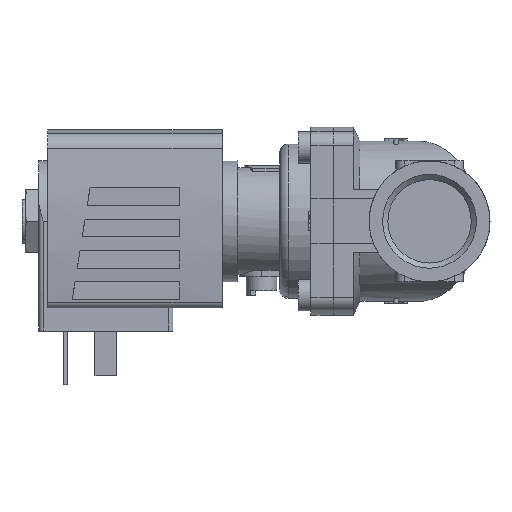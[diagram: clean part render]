
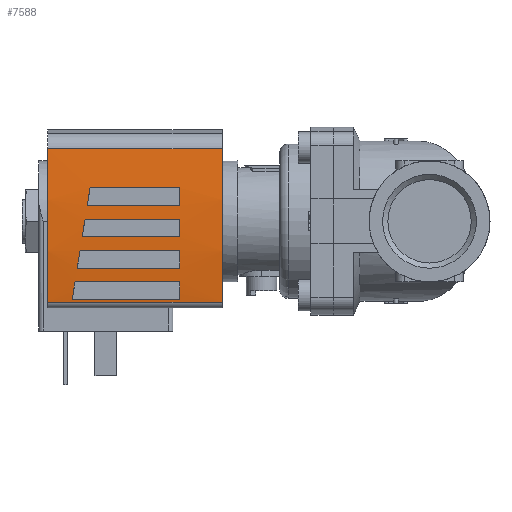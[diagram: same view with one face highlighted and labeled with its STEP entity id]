
A CAD part, left-side view. The second image highlights one B-rep face of the part: STEP entity #7588.
In plain terms, the highlighted cylindrical face has radius 130 mm (diameter 260 mm), a partial arc.
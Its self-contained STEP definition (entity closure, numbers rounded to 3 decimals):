
#86=ELLIPSE('',#8203,131.653,130.);
#87=ELLIPSE('',#8205,131.653,130.);
#88=ELLIPSE('',#8208,131.653,130.);
#89=ELLIPSE('',#8210,131.653,130.);
#246=CYLINDRICAL_SURFACE('',#8202,130.);
#694=LINE('',#11849,#1250);
#696=LINE('',#11869,#1252);
#697=LINE('',#11873,#1253);
#698=LINE('',#11874,#1254);
#699=LINE('',#11879,#1255);
#700=LINE('',#11884,#1256);
#701=LINE('',#11888,#1257);
#702=LINE('',#11892,#1258);
#703=LINE('',#11896,#1259);
#704=LINE('',#11900,#1260);
#1250=VECTOR('',#9766,1000.);
#1252=VECTOR('',#9788,1000.);
#1253=VECTOR('',#9791,1000.);
#1254=VECTOR('',#9792,1000.);
#1255=VECTOR('',#9795,1000.);
#1256=VECTOR('',#9800,1000.);
#1257=VECTOR('',#9803,1000.);
#1258=VECTOR('',#9806,1000.);
#1259=VECTOR('',#9809,1000.);
#1260=VECTOR('',#9812,1000.);
#2782=ORIENTED_EDGE('',*,*,#3893,.F.);
#2783=ORIENTED_EDGE('',*,*,#3894,.F.);
#2784=ORIENTED_EDGE('',*,*,#3895,.F.);
#2785=ORIENTED_EDGE('',*,*,#3896,.F.);
#2786=ORIENTED_EDGE('',*,*,#3897,.F.);
#2787=ORIENTED_EDGE('',*,*,#3898,.F.);
#2788=ORIENTED_EDGE('',*,*,#3899,.F.);
#2789=ORIENTED_EDGE('',*,*,#3900,.F.);
#2790=ORIENTED_EDGE('',*,*,#3901,.T.);
#2791=ORIENTED_EDGE('',*,*,#3902,.F.);
#2792=ORIENTED_EDGE('',*,*,#3887,.F.);
#2793=ORIENTED_EDGE('',*,*,#3884,.T.);
#2794=ORIENTED_EDGE('',*,*,#3903,.F.);
#2795=ORIENTED_EDGE('',*,*,#3904,.F.);
#2796=ORIENTED_EDGE('',*,*,#3905,.F.);
#2797=ORIENTED_EDGE('',*,*,#3906,.F.);
#2798=ORIENTED_EDGE('',*,*,#3907,.F.);
#2799=ORIENTED_EDGE('',*,*,#3908,.F.);
#2800=ORIENTED_EDGE('',*,*,#3909,.F.);
#2801=ORIENTED_EDGE('',*,*,#3910,.F.);
#3884=EDGE_CURVE('',#4551,#4550,#694,.T.);
#3887=EDGE_CURVE('',#4551,#4553,#4853,.T.);
#3893=EDGE_CURVE('',#4557,#4558,#86,.T.);
#3894=EDGE_CURVE('',#4559,#4557,#696,.F.);
#3895=EDGE_CURVE('',#4560,#4559,#4858,.T.);
#3896=EDGE_CURVE('',#4558,#4560,#697,.T.);
#3897=EDGE_CURVE('',#4561,#4562,#698,.T.);
#3898=EDGE_CURVE('',#4563,#4561,#87,.T.);
#3899=EDGE_CURVE('',#4564,#4563,#699,.F.);
#3900=EDGE_CURVE('',#4562,#4564,#4859,.T.);
#3901=EDGE_CURVE('',#4550,#4565,#4860,.T.);
#3902=EDGE_CURVE('',#4553,#4565,#700,.T.);
#3903=EDGE_CURVE('',#4566,#4567,#88,.T.);
#3904=EDGE_CURVE('',#4568,#4566,#701,.F.);
#3905=EDGE_CURVE('',#4569,#4568,#4861,.T.);
#3906=EDGE_CURVE('',#4567,#4569,#702,.T.);
#3907=EDGE_CURVE('',#4570,#4571,#89,.T.);
#3908=EDGE_CURVE('',#4572,#4570,#703,.F.);
#3909=EDGE_CURVE('',#4573,#4572,#4862,.T.);
#3910=EDGE_CURVE('',#4571,#4573,#704,.T.);
#4550=VERTEX_POINT('',#11848);
#4551=VERTEX_POINT('',#11850);
#4553=VERTEX_POINT('',#11856);
#4557=VERTEX_POINT('',#11867);
#4558=VERTEX_POINT('',#11868);
#4559=VERTEX_POINT('',#11870);
#4560=VERTEX_POINT('',#11872);
#4561=VERTEX_POINT('',#11875);
#4562=VERTEX_POINT('',#11876);
#4563=VERTEX_POINT('',#11878);
#4564=VERTEX_POINT('',#11880);
#4565=VERTEX_POINT('',#11883);
#4566=VERTEX_POINT('',#11886);
#4567=VERTEX_POINT('',#11887);
#4568=VERTEX_POINT('',#11889);
#4569=VERTEX_POINT('',#11891);
#4570=VERTEX_POINT('',#11894);
#4571=VERTEX_POINT('',#11895);
#4572=VERTEX_POINT('',#11897);
#4573=VERTEX_POINT('',#11899);
#4853=CIRCLE('',#8197,130.);
#4858=CIRCLE('',#8204,130.);
#4859=CIRCLE('',#8206,130.);
#4860=CIRCLE('',#8207,130.);
#4861=CIRCLE('',#8209,130.);
#4862=CIRCLE('',#8211,130.);
#5195=EDGE_LOOP('',(#2782,#2783,#2784,#2785));
#5196=EDGE_LOOP('',(#2786,#2787,#2788,#2789));
#5197=EDGE_LOOP('',(#2790,#2791,#2792,#2793));
#5198=EDGE_LOOP('',(#2794,#2795,#2796,#2797));
#5199=EDGE_LOOP('',(#2798,#2799,#2800,#2801));
#5606=FACE_BOUND('',#5195,.T.);
#5607=FACE_BOUND('',#5196,.T.);
#5608=FACE_BOUND('',#5197,.T.);
#5609=FACE_BOUND('',#5198,.T.);
#5610=FACE_BOUND('',#5199,.T.);
#7588=ADVANCED_FACE('',(#5606,#5607,#5608,#5609,#5610),#246,.T.);
#8197=AXIS2_PLACEMENT_3D('',#11855,#9773,#9774);
#8202=AXIS2_PLACEMENT_3D('',#11865,#9784,#9785);
#8203=AXIS2_PLACEMENT_3D('',#11866,#9786,#9787);
#8204=AXIS2_PLACEMENT_3D('',#11871,#9789,#9790);
#8205=AXIS2_PLACEMENT_3D('',#11877,#9793,#9794);
#8206=AXIS2_PLACEMENT_3D('',#11881,#9796,#9797);
#8207=AXIS2_PLACEMENT_3D('',#11882,#9798,#9799);
#8208=AXIS2_PLACEMENT_3D('',#11885,#9801,#9802);
#8209=AXIS2_PLACEMENT_3D('',#11890,#9804,#9805);
#8210=AXIS2_PLACEMENT_3D('',#11893,#9807,#9808);
#8211=AXIS2_PLACEMENT_3D('',#11898,#9810,#9811);
#9766=DIRECTION('',(0.,-1.,0.));
#9773=DIRECTION('',(0.,1.,0.));
#9774=DIRECTION('',(1.,0.,0.));
#9784=DIRECTION('',(0.,-1.,0.));
#9785=DIRECTION('',(0.,0.,-1.));
#9786=DIRECTION('',(-0.158,-0.987,0.));
#9787=DIRECTION('',(0.987,-0.158,0.));
#9788=DIRECTION('',(0.,-1.,0.));
#9789=DIRECTION('',(0.,1.,0.));
#9790=DIRECTION('',(0.,0.,1.));
#9791=DIRECTION('',(0.,-1.,0.));
#9792=DIRECTION('',(0.,-1.,0.));
#9793=DIRECTION('',(-0.158,-0.987,0.));
#9794=DIRECTION('',(0.987,-0.158,0.));
#9795=DIRECTION('',(0.,-1.,0.));
#9796=DIRECTION('',(0.,1.,0.));
#9797=DIRECTION('',(0.,0.,1.));
#9798=DIRECTION('',(0.,1.,0.));
#9799=DIRECTION('',(1.,0.,0.));
#9800=DIRECTION('',(0.,-1.,0.));
#9801=DIRECTION('',(-0.158,-0.987,0.));
#9802=DIRECTION('',(0.987,-0.158,0.));
#9803=DIRECTION('',(0.,-1.,0.));
#9804=DIRECTION('',(0.,1.,0.));
#9805=DIRECTION('',(0.,0.,1.));
#9806=DIRECTION('',(0.,-1.,0.));
#9807=DIRECTION('',(-0.158,-0.987,0.));
#9808=DIRECTION('',(0.987,-0.158,0.));
#9809=DIRECTION('',(0.,-1.,0.));
#9810=DIRECTION('',(0.,1.,0.));
#9811=DIRECTION('',(0.,0.,1.));
#9812=DIRECTION('',(0.,-1.,0.));
#11848=CARTESIAN_POINT('',(-18.071,-26.,14.738));
#11849=CARTESIAN_POINT('',(-18.071,13.,14.738));
#11850=CARTESIAN_POINT('',(-18.071,13.,14.738));
#11855=CARTESIAN_POINT('',(0.,13.,-114.));
#11856=CARTESIAN_POINT('',(16.195,13.,14.987));
#11865=CARTESIAN_POINT('',(0.,13.,-114.));
#11866=CARTESIAN_POINT('',(0.,4.7,-114.));
#11867=CARTESIAN_POINT('',(0.5,4.62,15.999));
#11868=CARTESIAN_POINT('',(-3.5,5.26,15.953));
#11869=CARTESIAN_POINT('',(0.5,13.,15.999));
#11870=CARTESIAN_POINT('',(0.5,-16.5,15.999));
#11871=CARTESIAN_POINT('',(0.,-16.5,-114.));
#11872=CARTESIAN_POINT('',(-3.5,-16.5,15.953));
#11873=CARTESIAN_POINT('',(-3.5,13.,15.953));
#11874=CARTESIAN_POINT('',(-17.5,13.,14.817));
#11875=CARTESIAN_POINT('',(-17.5,7.5,14.817));
#11876=CARTESIAN_POINT('',(-17.5,-16.5,14.817));
#11877=CARTESIAN_POINT('',(0.,4.7,-114.));
#11878=CARTESIAN_POINT('',(-13.5,6.86,15.297));
#11879=CARTESIAN_POINT('',(-13.5,13.,15.297));
#11880=CARTESIAN_POINT('',(-13.5,-16.5,15.297));
#11881=CARTESIAN_POINT('',(0.,-16.5,-114.));
#11882=CARTESIAN_POINT('',(0.,-26.,-114.));
#11883=CARTESIAN_POINT('',(16.195,-26.,14.987));
#11884=CARTESIAN_POINT('',(16.195,13.,14.987));
#11885=CARTESIAN_POINT('',(0.,4.7,-114.));
#11886=CARTESIAN_POINT('',(-6.5,5.74,15.837));
#11887=CARTESIAN_POINT('',(-10.5,6.38,15.575));
#11888=CARTESIAN_POINT('',(-6.5,13.,15.837));
#11889=CARTESIAN_POINT('',(-6.5,-16.5,15.837));
#11890=CARTESIAN_POINT('',(0.,-16.5,-114.));
#11891=CARTESIAN_POINT('',(-10.5,-16.5,15.575));
#11892=CARTESIAN_POINT('',(-10.5,13.,15.575));
#11893=CARTESIAN_POINT('',(0.,4.7,-114.));
#11894=CARTESIAN_POINT('',(7.5,3.5,15.783));
#11895=CARTESIAN_POINT('',(3.5,4.14,15.953));
#11896=CARTESIAN_POINT('',(7.5,13.,15.783));
#11897=CARTESIAN_POINT('',(7.5,-16.5,15.783));
#11898=CARTESIAN_POINT('',(0.,-16.5,-114.));
#11899=CARTESIAN_POINT('',(3.5,-16.5,15.953));
#11900=CARTESIAN_POINT('',(3.5,13.,15.953));
